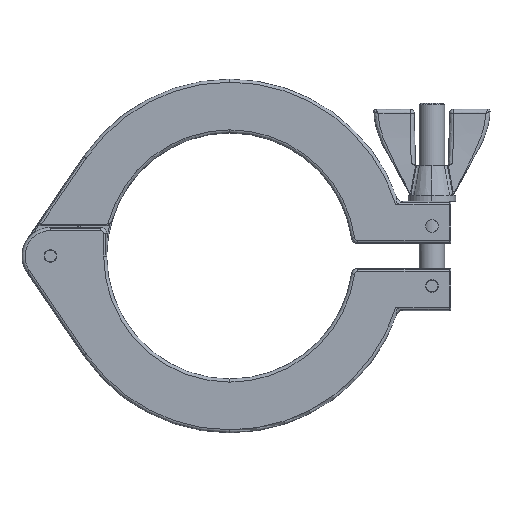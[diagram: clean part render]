
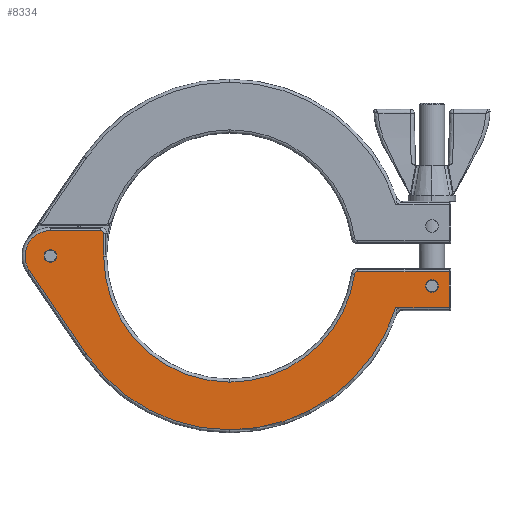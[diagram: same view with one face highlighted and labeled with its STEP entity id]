
A CAD part, front view. The second image highlights one B-rep face of the part: STEP entity #8334.
In plain terms, the highlighted planar face has unit normal (0, -1, 0).
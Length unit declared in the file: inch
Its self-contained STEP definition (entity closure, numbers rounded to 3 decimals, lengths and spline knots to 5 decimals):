
#596=VECTOR('',#9863,1.);
#597=VECTOR('',#9864,1.);
#598=VECTOR('',#9865,1.);
#599=VECTOR('',#9866,1.);
#600=VECTOR('',#9869,1.);
#601=VECTOR('',#9872,1.);
#920=LINE('',#27428,#596);
#921=LINE('',#27430,#597);
#922=LINE('',#27432,#598);
#923=LINE('',#27433,#599);
#924=LINE('',#27437,#600);
#925=LINE('',#27441,#601);
#1081=PLANE('',#49036);
#1575=VERTEX_POINT('',#10760);
#1576=VERTEX_POINT('',#10762);
#1919=VERTEX_POINT('',#22974);
#1920=VERTEX_POINT('',#22976);
#1922=VERTEX_POINT('',#22981);
#1942=VERTEX_POINT('',#23026);
#2025=VERTEX_POINT('',#27063);
#2026=VERTEX_POINT('',#27065);
#2032=VERTEX_POINT('',#27096);
#2034=VERTEX_POINT('',#27099);
#2038=VERTEX_POINT('',#27426);
#2039=VERTEX_POINT('',#27427);
#2040=VERTEX_POINT('',#27429);
#2041=VERTEX_POINT('',#27431);
#2042=VERTEX_POINT('',#27434);
#2043=VERTEX_POINT('',#27436);
#2044=VERTEX_POINT('',#27438);
#2045=VERTEX_POINT('',#27440);
#2046=VERTEX_POINT('',#27442);
#2373=CIRCLE('',#48534,0.062);
#2625=CIRCLE('',#48939,0.0625);
#2627=CIRCLE('',#48941,0.0625);
#2639=CIRCLE('',#48956,0.062);
#2674=CIRCLE('',#49015,0.03);
#2680=CIRCLE('',#49026,1.248);
#2683=CIRCLE('',#49029,1.248);
#2688=CIRCLE('',#49037,0.0625);
#2689=CIRCLE('',#49038,0.062);
#2690=CIRCLE('',#49039,1.72);
#2691=CIRCLE('',#49040,0.03);
#2692=CIRCLE('',#49041,0.251);
#2693=CIRCLE('',#49042,1.72);
#2908=EDGE_CURVE('',#1576,#1575,#2373,.F.);
#3476=EDGE_CURVE('',#1920,#1919,#2625,.F.);
#3480=EDGE_CURVE('',#1919,#1922,#2627,.T.);
#3502=EDGE_CURVE('',#1575,#1942,#2639,.T.);
#3622=EDGE_CURVE('',#2025,#2026,#2674,.F.);
#3634=EDGE_CURVE('',#2034,#2032,#2680,.F.);
#3637=EDGE_CURVE('',#2025,#2034,#2683,.F.);
#3645=EDGE_CURVE('',#1922,#1920,#2688,.F.);
#3646=EDGE_CURVE('',#1942,#1576,#2689,.F.);
#3647=EDGE_CURVE('',#2038,#2039,#2690,.T.);
#3648=EDGE_CURVE('',#2039,#2040,#920,.F.);
#3649=EDGE_CURVE('',#2040,#2041,#921,.F.);
#3650=EDGE_CURVE('',#2041,#2026,#922,.F.);
#3651=EDGE_CURVE('',#2032,#2042,#923,.F.);
#3652=EDGE_CURVE('',#2043,#2042,#2691,.F.);
#3653=EDGE_CURVE('',#2043,#2044,#924,.F.);
#3654=EDGE_CURVE('',#2044,#2045,#2692,.T.);
#3655=EDGE_CURVE('',#2045,#2046,#925,.F.);
#3656=EDGE_CURVE('',#2046,#2038,#2693,.T.);
#5625=ORIENTED_EDGE('',*,*,#3476,.T.);
#5626=ORIENTED_EDGE('',*,*,#3480,.T.);
#5627=ORIENTED_EDGE('',*,*,#3645,.T.);
#5628=ORIENTED_EDGE('',*,*,#2908,.T.);
#5629=ORIENTED_EDGE('',*,*,#3502,.T.);
#5630=ORIENTED_EDGE('',*,*,#3646,.T.);
#5631=ORIENTED_EDGE('',*,*,#3647,.T.);
#5632=ORIENTED_EDGE('',*,*,#3648,.T.);
#5633=ORIENTED_EDGE('',*,*,#3649,.T.);
#5634=ORIENTED_EDGE('',*,*,#3650,.T.);
#5635=ORIENTED_EDGE('',*,*,#3622,.F.);
#5636=ORIENTED_EDGE('',*,*,#3637,.T.);
#5637=ORIENTED_EDGE('',*,*,#3634,.T.);
#5638=ORIENTED_EDGE('',*,*,#3651,.T.);
#5639=ORIENTED_EDGE('',*,*,#3652,.F.);
#5640=ORIENTED_EDGE('',*,*,#3653,.T.);
#5641=ORIENTED_EDGE('',*,*,#3654,.T.);
#5642=ORIENTED_EDGE('',*,*,#3655,.T.);
#5643=ORIENTED_EDGE('',*,*,#3656,.T.);
#7189=EDGE_LOOP('',(#5625,#5626,#5627));
#7190=EDGE_LOOP('',(#5628,#5629,#5630));
#7191=EDGE_LOOP('',(#5631,#5632,#5633,#5634,#5635,#5636,#5637,#5638,#5639,
#5640,#5641,#5642,#5643));
#7768=FACE_BOUND('',#7189,.T.);
#7769=FACE_BOUND('',#7190,.T.);
#7770=FACE_BOUND('',#7191,.T.);
#8334=ADVANCED_FACE('',(#7768,#7769,#7770),#1081,.T.);
#8738=DIRECTION('',(0.,-1.,0.));
#8739=DIRECTION('',(0.,0.,0.062));
#9638=DIRECTION('',(0.,-1.,0.));
#9639=DIRECTION('',(0.,0.,-0.062));
#9644=DIRECTION('',(0.,1.,0.));
#9645=DIRECTION('',(0.,0.,-0.062));
#9682=DIRECTION('',(0.,1.,0.));
#9683=DIRECTION('',(0.,0.,0.062));
#9815=DIRECTION('',(0.,-1.,0.));
#9816=DIRECTION('',(0.,0.,-0.03));
#9837=DIRECTION('',(0.,-1.,0.));
#9838=DIRECTION('',(0.,0.,-1.248));
#9843=DIRECTION('',(0.,-1.,0.));
#9844=DIRECTION('',(0.,0.,-1.248));
#9856=DIRECTION('',(0.,-1.,0.));
#9857=DIRECTION('',(0.,-1.,0.));
#9858=DIRECTION('',(0.,0.,-0.062));
#9859=DIRECTION('',(0.,-1.,0.));
#9860=DIRECTION('',(0.,0.,0.062));
#9861=DIRECTION('',(0.,-1.,0.));
#9862=DIRECTION('',(0.,0.,-1.72));
#9863=DIRECTION('',(-1.,0.,0.));
#9864=DIRECTION('',(0.,0.,-1.));
#9865=DIRECTION('',(1.,0.,0.));
#9866=DIRECTION('',(0.,0.,-1.));
#9867=DIRECTION('',(0.,-1.,0.));
#9868=DIRECTION('',(0.,0.,-0.03));
#9869=DIRECTION('',(1.,0.,0.));
#9870=DIRECTION('',(0.,-1.,0.));
#9871=DIRECTION('',(0.,0.,-0.251));
#9872=DIRECTION('',(-0.562,0.,0.827));
#9873=DIRECTION('',(0.,-1.,0.));
#9874=DIRECTION('',(0.,0.,-1.72));
#10760=CARTESIAN_POINT('',(2.,-0.35,-0.235));
#10761=CARTESIAN_POINT('',(2.,-0.35,-0.297));
#10762=CARTESIAN_POINT('',(1.938,-0.35,-0.297));
#22974=CARTESIAN_POINT('',(-1.7135,-0.35,0.));
#22975=CARTESIAN_POINT('',(-1.776,-0.35,0.));
#22976=CARTESIAN_POINT('',(-1.8385,-0.35,0.));
#22981=CARTESIAN_POINT('',(-1.776,-0.35,-0.0625));
#22982=CARTESIAN_POINT('',(-1.776,-0.35,0.));
#23026=CARTESIAN_POINT('',(2.062,-0.35,-0.297));
#23027=CARTESIAN_POINT('',(2.,-0.35,-0.297));
#27063=CARTESIAN_POINT('',(1.23486,-0.35,-0.18066));
#27064=CARTESIAN_POINT('',(1.26454,-0.35,-0.185));
#27065=CARTESIAN_POINT('',(1.26454,-0.35,-0.155));
#27096=CARTESIAN_POINT('',(-1.248,-0.35,0.));
#27098=CARTESIAN_POINT('',(0.,-0.35,0.));
#27099=CARTESIAN_POINT('',(0.,-0.35,-1.248));
#27102=CARTESIAN_POINT('',(0.,-0.35,0.));
#27422=CARTESIAN_POINT('',(0.00752,-0.35,-0.73478));
#27423=CARTESIAN_POINT('',(-1.776,-0.35,0.));
#27424=CARTESIAN_POINT('',(2.,-0.35,-0.297));
#27425=CARTESIAN_POINT('',(0.,-0.35,0.));
#27426=CARTESIAN_POINT('',(0.,-0.35,-1.72));
#27427=CARTESIAN_POINT('',(1.64265,-0.35,-0.51));
#27428=CARTESIAN_POINT('',(1.09776,-0.35,-0.51));
#27429=CARTESIAN_POINT('',(2.173,-0.35,-0.51));
#27430=CARTESIAN_POINT('',(2.173,-0.35,-0.42989));
#27431=CARTESIAN_POINT('',(2.173,-0.35,-0.155));
#27432=CARTESIAN_POINT('',(0.63603,-0.35,-0.155));
#27433=CARTESIAN_POINT('',(-1.248,-0.35,-0.25689));
#27434=CARTESIAN_POINT('',(-1.248,-0.35,0.221));
#27435=CARTESIAN_POINT('',(-1.278,-0.35,0.221));
#27436=CARTESIAN_POINT('',(-1.278,-0.35,0.251));
#27437=CARTESIAN_POINT('',(-0.88424,-0.35,0.251));
#27438=CARTESIAN_POINT('',(-1.776,-0.35,0.251));
#27439=CARTESIAN_POINT('',(-1.776,-0.35,0.));
#27440=CARTESIAN_POINT('',(-1.98361,-0.35,-0.14106));
#27441=CARTESIAN_POINT('',(-1.25071,-0.35,-1.21974));
#27442=CARTESIAN_POINT('',(-1.42268,-0.35,-0.96663));
#27443=CARTESIAN_POINT('',(0.,-0.35,0.));
#48534=AXIS2_PLACEMENT_3D('',#10761,#8738,#8739);
#48939=AXIS2_PLACEMENT_3D('',#22975,#9638,#9639);
#48941=AXIS2_PLACEMENT_3D('',#22982,#9644,#9645);
#48956=AXIS2_PLACEMENT_3D('',#23027,#9682,#9683);
#49015=AXIS2_PLACEMENT_3D('',#27064,#9815,#9816);
#49026=AXIS2_PLACEMENT_3D('',#27098,#9837,#9838);
#49029=AXIS2_PLACEMENT_3D('',#27102,#9843,#9844);
#49036=AXIS2_PLACEMENT_3D('',#27422,#9856,$);
#49037=AXIS2_PLACEMENT_3D('',#27423,#9857,#9858);
#49038=AXIS2_PLACEMENT_3D('',#27424,#9859,#9860);
#49039=AXIS2_PLACEMENT_3D('',#27425,#9861,#9862);
#49040=AXIS2_PLACEMENT_3D('',#27435,#9867,#9868);
#49041=AXIS2_PLACEMENT_3D('',#27439,#9870,#9871);
#49042=AXIS2_PLACEMENT_3D('',#27443,#9873,#9874);
